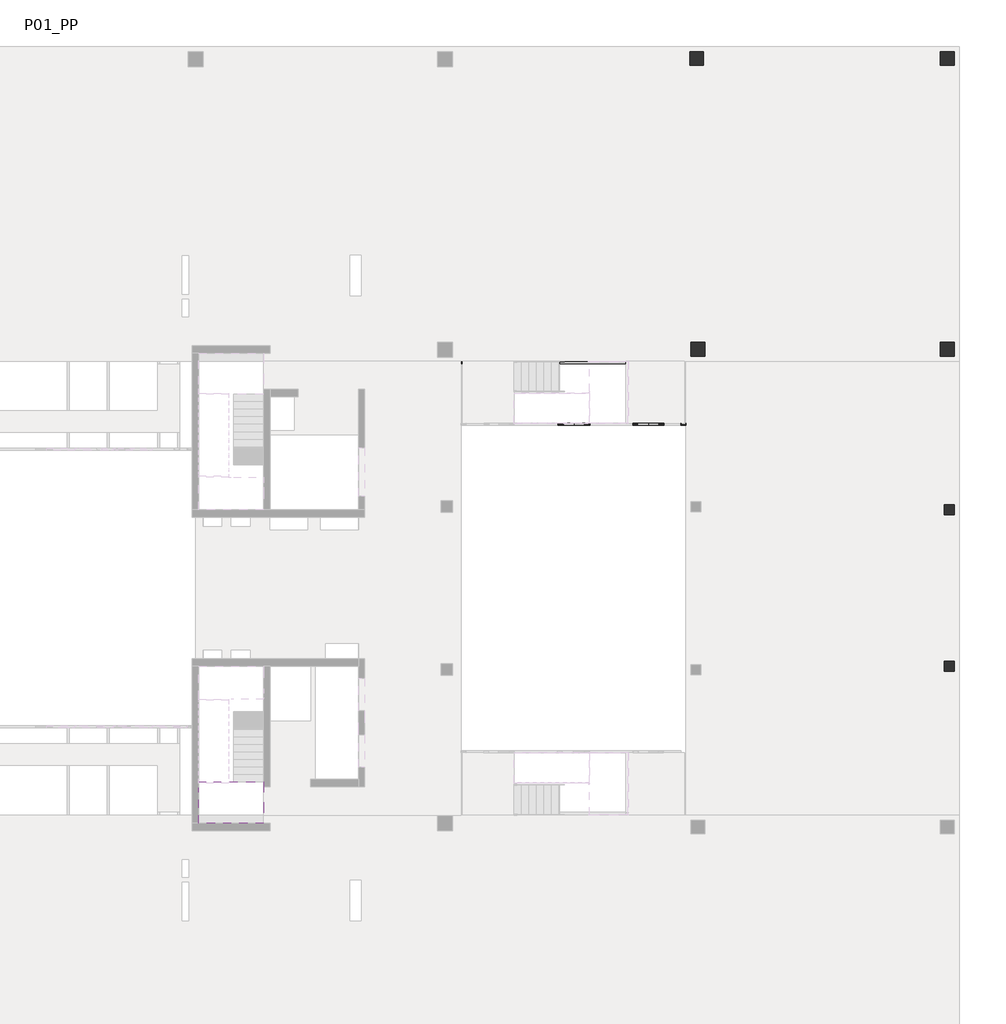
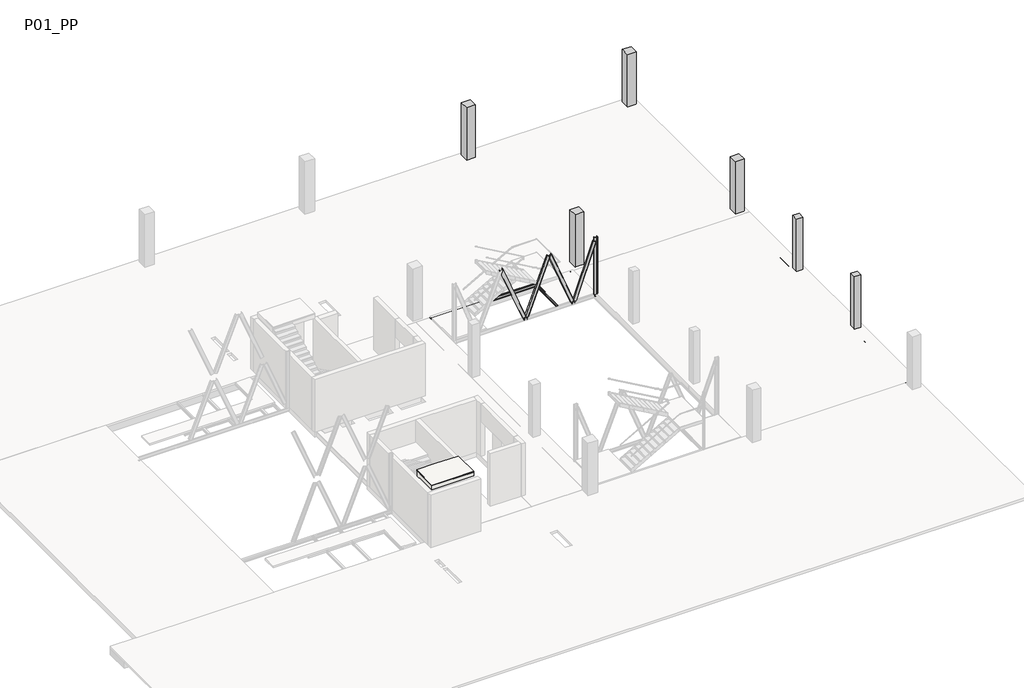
# One storey, part 6 of 8: 19 beams, 7 columns, 1 slab.
"""IFC4 building model written with IfcOpenShell, lengths in millimetres."""

from ifc_helpers import new_model, si_unit, frame, origin, place, context, project, spatial, polyline, circle_curve, ellipse_curve, outline, extrude, faceted_brep, transform, mapped, element, save
from ifc_brep_helpers import plane_surface, cylinder_surface, revolved_surface, advanced_brep
from components import ub_universal_beams_ipe_200x100_e371353f, ub_universal_beams_ipe_200x100_1ecb3d1d, ub_universal_beams_ipe_200x100_6905c83b, upn_200x75_fcc0ec56

model = new_model("IFC4")

# Units and contexts
model_context = context("Model", 3, world=origin())
ifc_project = project(units=[si_unit("LENGTHUNIT", "METRE", prefix="MILLI")], contexts=[model_context])

# Site, building, storey
site = spatial("IfcSite", under=ifc_project)
building = spatial("IfcBuilding", under=site)
storey = spatial("IfcBuildingStorey", under=building, Name="P01_PP", Elevation=11160.0)

# Beams
placement = place(None, origin())
element("IfcBeam", 1, ObjectType="M_Concrete-Rectangular Beam : 1500 x 550mm", at=placement, inside=storey, context=model_context, shape_type="AdvancedBrep", body=[
    advanced_brep(
    [(16958.7687297, 13539.4134441, 10610.0), (16958.7687297, 24589.4144807, 10610.0), (16958.7687297, 24589.4144807, 11010.0), (16958.7687297, 13539.4134441, 11010.0), (15458.7687297, 24589.4144807, 10610.0), (15458.7687297, 13539.4134441, 10610.0), (15458.7687297, 15039.4134441, 10610.0), (16751.4451309, 14198.7161882, 10610.0), (16216.0922843, 13830.0736383, 10610.0), (15458.7687297, 13539.4134441, 11010.0), (15458.7687297, 15039.4134441, 11010.0), (15458.7687297, 24589.4144807, 11010.0), (16751.4451309, 14198.7161882, 10860.0), (16216.0922843, 13830.0736383, 10860.0)],
    [
        (0, 1),
        (1, 2),
        (2, 3),
        (3, 0),
        (4, 1),
        (0, 5),
        (5, 6),
        (6, 4),
        (7, 8, circle_curve(frame((16483.7687076, 14014.3949133, 10610.0), z_axis=(0.0, 0.0, 1.0), x_axis=(0.8236197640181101, 0.5671423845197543, 0.0)), 325.0)),
        (8, 7, circle_curve(frame((16483.7687076, 14014.3949133, 10610.0), z_axis=(0.0, 0.0, 1.0), x_axis=(0.8236197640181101, 0.5671423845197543, 0.0)), 325.0)),
        (5, 9),
        (9, 10),
        (10, 11),
        (11, 4),
        (11, 2),
        (12, 13, circle_curve(frame((16483.7687076, 14014.3949133, 10860.0), z_axis=(0.0, 0.0, 1.0), x_axis=(0.8236197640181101, 0.5671423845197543, 0.0)), 325.0)),
        (13, 8),
        (7, 12),
        (12, 13, circle_curve(frame((16483.7687076, 14014.3949133, 10860.0), z_axis=(0.0, 0.0, -1.0), x_axis=(0.8236197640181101, 0.5671423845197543, 0.0)), 325.0)),
        (3, 9),
    ],
    [
        plane_surface(frame((16958.7687297, 15052.1134441, 11160.0), z_axis=(1.0, 0.0, 0.0), x_axis=(0.0, 1.0, 0.0))),
        plane_surface(frame((16958.7687297, 15052.1134441, 10610.0), z_axis=(0.0, 0.0, -1.0), x_axis=(0.0, 1.0, 0.0))),
        plane_surface(frame((15458.7687297, 15052.1134441, 10610.0), z_axis=(-1.0, 0.0, 0.0), x_axis=(0.0, 1.0, 0.0))),
        plane_surface(frame((-32477.5931093, 24589.4144807, 10885.0), z_axis=(0.0, 1.0, 0.0), x_axis=(0.0, 0.0, 1.0))),
        revolved_surface(polyline([(16751.445130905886, 14198.716188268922, 10860.0), (16751.445130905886, 14198.716188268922, 10610.0)]), (16483.7687076, 14014.3949133, 5480.0), (0.0, 0.0, 1.0)),
        plane_surface(frame((16751.4451309, 14198.7161882, 10860.0), z_axis=(0.0, 0.0, -1.0000000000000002), x_axis=(-0.5671423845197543, 0.8236197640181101, 0.0))),
        plane_surface(frame((16982.6978133, 13539.4134441, 11160.0), z_axis=(0.0, -1.0, 0.0), x_axis=(-1.0, 0.0, 0.0))),
        plane_surface(frame((-33190.2931093, -4560.5861796, 11010.0), z_axis=(0.0, 0.0, 1.0), x_axis=(0.0, 1.0, 0.0))),
    ],
    [
        (0, [[1, 2, 3, 4]]),
        (1, [[5, -1, 6, 7, 8], [9, 10]]),
        (2, [[-8, -7, 11, 12, 13, 14]]),
        (3, [[-5, -14, 15, -2]]),
        (4, [[16, 17, -9, 18]]),
        (5, [[-16, 19]]),
        (6, [[-6, -4, 20, -11]]),
        (4, [[-19, -18, -10, -17]]),
        (7, [[-3, -15, -13, -12, -20]]),
    ],
),
])
element("IfcBeam", 2, ObjectType="M_Concrete-Rectangular Beam : 400 x 550mm", at=placement, inside=storey, context=model_context, shape_type="SweptSolid", body=[
    extrude(outline(polyline([(450.3958139, 24589.4144807), (850.3958139, 24589.4144807), (850.3958139, 15039.4134441), (450.3958139, 15039.4134441), (450.3958139, 24589.4144807)])), frame((0.0, 0.0, 10610.0), z_axis=(0.0, 0.0, 1.0), x_axis=(1.0, 0.0, 0.0)), (0.0, 0.0, 1.0), 400.0),
])
element("IfcBeam", 3, ObjectType="M_Concrete-Rectangular Beam : 400 x 550mm", at=placement, inside=storey, context=model_context, shape_type="SweptSolid", body=[
    extrude(outline(polyline([(2117.0624776, 24589.4144807), (2517.0624776, 24589.4144807), (2517.0624776, 15039.4134441), (2117.0624776, 15039.4134441), (2117.0624776, 24589.4144807)])), frame((0.0, 0.0, 10610.0), z_axis=(0.0, 0.0, 1.0), x_axis=(1.0, 0.0, 0.0)), (0.0, 0.0, 1.0), 400.0),
])
element("IfcBeam", 4, ObjectType="M_Concrete-Rectangular Beam : 400 x 550mm", at=placement, inside=storey, context=model_context, shape_type="SweptSolid", body=[
    extrude(outline(polyline([(3783.7291418, 24589.4144807), (4183.7291418, 24589.4144807), (4183.7291418, 15039.4134441), (3783.7291418, 15039.4134441), (3783.7291418, 24589.4144807)])), frame((0.0, 0.0, 10610.0), z_axis=(0.0, 0.0, 1.0), x_axis=(1.0, 0.0, 0.0)), (0.0, 0.0, 1.0), 400.0),
])
element("IfcBeam", 5, ObjectType="M_Concrete-Rectangular Beam : 400 x 550mm", at=placement, inside=storey, context=model_context, shape_type="SweptSolid", body=[
    extrude(outline(polyline([(5450.3958055, 24589.4144807), (5850.3958055, 24589.4144807), (5850.3958055, 15039.4134441), (5450.3958055, 15039.4134441), (5450.3958055, 24589.4144807)])), frame((0.0, 0.0, 10610.0), z_axis=(0.0, 0.0, 1.0), x_axis=(1.0, 0.0, 0.0)), (0.0, 0.0, 1.0), 400.0),
])
element("IfcBeam", 6, ObjectType="M_Concrete-Rectangular Beam : 400 x 550mm", at=placement, inside=storey, context=model_context, shape_type="SweptSolid", body=[
    extrude(outline(polyline([(7117.0624701, 24589.4144807), (7517.0624701, 24589.4144807), (7517.0624701, 15039.4134441), (7117.0624701, 15039.4134441), (7117.0624701, 24589.4144807)])), frame((0.0, 0.0, 10610.0), z_axis=(0.0, 0.0, 1.0), x_axis=(1.0, 0.0, 0.0)), (0.0, 0.0, 1.0), 400.0),
])
element("IfcBeam", 7, ObjectType="M_Concrete-Rectangular Beam : 400 x 550mm", at=placement, inside=storey, context=model_context, shape_type="SweptSolid", body=[
    extrude(outline(polyline([(8783.7291339, 24589.4144807), (9183.7291339, 24589.4144807), (9183.7291339, 15039.4134441), (8783.7291339, 15039.4134441), (8783.7291339, 24589.4144807)])), frame((0.0, 0.0, 10610.0), z_axis=(0.0, 0.0, 1.0), x_axis=(1.0, 0.0, 0.0)), (0.0, 0.0, 1.0), 400.0),
])
element("IfcBeam", 8, ObjectType="M_Concrete-Rectangular Beam : 400 x 550mm", at=placement, inside=storey, context=model_context, shape_type="SweptSolid", body=[
    extrude(outline(polyline([(10450.3957976, 24589.4144807), (10850.3957976, 24589.4144807), (10850.3957976, 15039.4134441), (10450.3957976, 15039.4134441), (10450.3957976, 24589.4144807)])), frame((0.0, 0.0, 10610.0), z_axis=(0.0, 0.0, 1.0), x_axis=(1.0, 0.0, 0.0)), (0.0, 0.0, 1.0), 400.0),
])
element("IfcBeam", 9, ObjectType="M_Concrete-Rectangular Beam : 400 x 550mm", at=placement, inside=storey, context=model_context, shape_type="SweptSolid", body=[
    extrude(outline(polyline([(12117.0624618, 24589.4144807), (12517.0624618, 24589.4144807), (12517.0624618, 15039.4134441), (12117.0624618, 15039.4134441), (12117.0624618, 24589.4144807)])), frame((0.0, 0.0, 10610.0), z_axis=(0.0, 0.0, 1.0), x_axis=(1.0, 0.0, 0.0)), (0.0, 0.0, 1.0), 400.0),
])
element("IfcBeam", 10, ObjectType="M_Concrete-Rectangular Beam : 400 x 550mm", at=placement, inside=storey, context=model_context, shape_type="SweptSolid", body=[
    extrude(outline(polyline([(13783.7291255, 24589.4144807), (14183.7291255, 24589.4144807), (14183.7291255, 15039.4134441), (13783.7291255, 15039.4134441), (13783.7291255, 24589.4144807)])), frame((0.0, 0.0, 10610.0), z_axis=(0.0, 0.0, 1.0), x_axis=(1.0, 0.0, 0.0)), (0.0, 0.0, 1.0), 400.0),
])
element("IfcBeam", 11, ObjectType="M_Concrete-Rectangular Beam : 700 x 500mm", at=placement, inside=storey, context=model_context, shape_type="AdvancedBrep", body=[
    advanced_brep(
    [(16958.7687242, 13539.4134441, 11160.0), (16258.7687242, 13539.4134441, 11160.0), (16258.7687242, -4560.5861501, 11160.0), (16958.7687242, -4560.5861501, 11160.0), (16258.7687242, 7597.8943447, 10860.0), (16258.7687242, 7597.8943447, 10660.0), (16258.7687242, 1381.9070959, 10660.0), (16258.7687242, 1381.9070959, 10860.0), (16258.7687242, 1347.8850416, 10860.0), (16258.7687242, 1347.8850416, 10660.0), (16258.7687242, -4560.5861501, 10660.0), (16258.7687242, -4560.5861501, 11010.0), (16258.7687242, 13539.4134441, 11010.0), (16258.7687242, 13539.4134441, 10660.0), (16258.7687242, 7631.8977908, 10660.0), (16258.7687242, 7631.8977908, 10860.0), (16958.7687242, -4560.5861501, 11010.0), (16958.7687242, -4560.5861501, 10660.0), (16958.7687242, 13539.4134441, 10660.0), (16958.7687242, 13539.4134441, 11010.0), (16558.2865725, 7914.8960678, 10660.0), (16558.2865725, 7914.8960678, 10860.0), (16558.2865725, 7314.8960678, 10860.0), (16558.2865725, 7314.8960678, 10660.0), (16858.2860442, 1364.8960687, 10660.0), (16858.2860442, 1364.8960687, 10860.0)],
    [
        (0, 1),
        (1, 2),
        (2, 3),
        (3, 0),
        (4, 5),
        (5, 6),
        (6, 7),
        (7, 8),
        (8, 9),
        (9, 10),
        (10, 11),
        (11, 2),
        (1, 12),
        (12, 13),
        (13, 14),
        (14, 15),
        (15, 4),
        (3, 16),
        (16, 17),
        (17, 18),
        (18, 19),
        (19, 0),
        (20, 21),
        (21, 15, circle_curve(frame((16558.2865725, 7614.8960678, 10860.0), z_axis=(0.0, 0.0, 1.0), x_axis=(0.0, 1.0, 0.0)), 300.0)),
        (14, 20, circle_curve(frame((16558.2865725, 7614.8960678, 10660.0), z_axis=(0.0, 0.0, -1.0), x_axis=(0.0, 1.0, 0.0)), 300.0)),
        (22, 21, circle_curve(frame((16558.2865725, 7614.8960678, 10860.0), z_axis=(0.0, 0.0, 1.0), x_axis=(0.0, 1.0, 0.0)), 300.0)),
        (20, 23, circle_curve(frame((16558.2865725, 7614.8960678, 10660.0), z_axis=(0.0, 0.0, -1.0), x_axis=(0.0, 1.0, 0.0)), 300.0)),
        (23, 22),
        (22, 4, circle_curve(frame((16558.2865725, 7614.8960678, 10860.0), z_axis=(0.0, 0.0, -1.0), x_axis=(0.0, 1.0, 0.0)), 300.0)),
        (23, 5, circle_curve(frame((16558.2865725, 7614.8960678, 10660.0), z_axis=(0.0, 0.0, -1.0), x_axis=(0.0, 1.0, 0.0)), 300.0)),
        (24, 25),
        (25, 7, circle_curve(frame((16558.2860442, 1364.8960687, 10860.0), z_axis=(0.0, 0.0, 1.0), x_axis=(1.0, 0.0, 0.0)), 300.0)),
        (6, 24, circle_curve(frame((16558.2860442, 1364.8960687, 10660.0), z_axis=(0.0, 0.0, -1.0), x_axis=(1.0, 0.0, 0.0)), 300.0)),
        (24, 9, circle_curve(frame((16558.2860442, 1364.8960687, 10660.0), z_axis=(0.0, 0.0, -1.0), x_axis=(1.0, 0.0, 0.0)), 300.0)),
        (8, 25, circle_curve(frame((16558.2860442, 1364.8960687, 10860.0), z_axis=(0.0, 0.0, 1.0), x_axis=(1.0, 0.0, 0.0)), 300.0)),
        (18, 13),
        (17, 10),
    ],
    [
        plane_surface(frame((16958.7687242, -5297.8861494, 11160.0), z_axis=(0.0, 0.0, 1.0), x_axis=(0.0, 1.0, 0.0))),
        plane_surface(frame((16258.7687242, -5297.8861494, 11160.0), z_axis=(-1.0, 0.0, 0.0), x_axis=(0.0, 1.0, 0.0))),
        plane_surface(frame((16958.7687242, -5297.8861494, 10660.0), z_axis=(1.0, 0.0, 0.0), x_axis=(0.0, 1.0, 0.0))),
        revolved_surface(polyline([(16558.2865725, 7914.8960678, 10860.0), (16558.2865725, 7914.8960678, 10660.0)]), (16558.2865725, 7614.8960678, 5480.0), (0.0, 0.0, 1.0)),
        plane_surface(frame((16558.2865725, 7914.8960678, 10860.0), z_axis=(0.0, 0.0, -1.0), x_axis=(-1.0, 0.0, 0.0))),
        revolved_surface(polyline([(16858.2860442, 1364.8960687, 10860.0), (16858.2860442, 1364.8960687, 10660.0)]), (16558.2860442, 1364.8960687, 5480.0), (0.0, 0.0, 1.0)),
        plane_surface(frame((16858.2860442, 1364.8960687, 10860.0), z_axis=(0.0, 0.0, -1.0), x_axis=(0.0, 1.0, 0.0))),
        plane_surface(frame((16982.6978133, 13539.4134441, 11160.0), z_axis=(0.0, 1.0, 0.0), x_axis=(-1.0, 0.0, 0.0))),
        plane_surface(frame((16258.7687242, -5297.8861494, 10660.0), z_axis=(0.0, 0.0, -1.0), x_axis=(0.0, 1.0, 0.0))),
        plane_surface(frame((16982.6978133, -4560.5861501, 10610.0), z_axis=(0.0, -1.0, 0.0), x_axis=(-1.0, 0.0, 0.0))),
    ],
    [
        (0, [[1, 2, 3, 4]]),
        (1, [[5, 6, 7, 8, 9, 10, 11, 12, -2, 13, 14, 15, 16, 17]]),
        (2, [[-4, 18, 19, 20, 21, 22]]),
        (3, [[23, 24, -16, 25]]),
        (3, [[26, -23, 27, 28]]),
        (4, [[-26, 29, -17, -24]]),
        (3, [[-28, 30, -5, -29]]),
        (5, [[31, 32, -7, 33]]),
        (5, [[-31, 34, -9, 35]]),
        (6, [[-32, -35, -8]]),
        (7, [[-1, -22, -21, 36, -14, -13]]),
        (8, [[-30, -27, -25, -15, -36, -20, 37, -10, -34, -33, -6]]),
        (9, [[-3, -12, -11, -37, -19, -18]]),
    ],
),
])
ub_universal_beams_ipe_200x100_shape = ub_universal_beams_ipe_200x100_e371353f(model_context)
element("IfcBeam", 12, ObjectType="UB-Universal Beams : IPE 200x100", at=placement, inside=storey, context=model_context, shape_type="MappedRepresentation", body=[
    mapped(ub_universal_beams_ipe_200x100_shape, transform((1299.9319648, 13489.4134389, 11060.0), x_axis=(-1.0, 0.0, 0.0), y_axis=(0.0, -1.0, 0.0), z_axis=(0.0, 0.0, 1.0))),
])
ub_universal_beams_ipe_200x100_2_shape = ub_universal_beams_ipe_200x100_1ecb3d1d(model_context)
element("IfcBeam", 13, ObjectType="UB-Universal Beams : IPE 200x100", at=placement, inside=storey, context=model_context, shape_type="MappedRepresentation", body=[
    mapped(ub_universal_beams_ipe_200x100_2_shape, transform((5938.4982342, 12672.0186888, 11060.0), x_axis=(0.0, -1.0, 0.0), y_axis=(1.0, 0.0, 0.0), z_axis=(0.0, 0.0, 1.0))),
])
ub_universal_beams_ipe_200x100_3_shape = ub_universal_beams_ipe_200x100_6905c83b(model_context)
element("IfcBeam", 14, ObjectType="UB-Universal Beams : IPE 200x100", at=placement, inside=storey, context=model_context, shape_type="MappedRepresentation", body=[
    mapped(ub_universal_beams_ipe_200x100_3_shape, transform((3714.2873994, 12677.4822857, 11060.0), x_axis=(0.0, -1.0, 0.0), y_axis=(1.0, 0.0, 0.0), z_axis=(0.0, 0.0, 1.0))),
])
element("IfcBeam", 15, ObjectType="UB-Universal Beams : IPE 200x100", at=placement, inside=storey, context=model_context, shape_type="MappedRepresentation", body=[
    mapped(ub_universal_beams_ipe_200x100_3_shape, transform((4826.3953909, 12677.4822857, 11060.0), x_axis=(0.0, -1.0, 0.0), y_axis=(1.0, 0.0, 0.0), z_axis=(0.0, 0.0, 1.0))),
])
element("IfcBeam", 16, ObjectType="M_MC Shapes : UPN200x75", at=placement, inside=storey, context=model_context, shape_type="AdvancedBrep", body=[
    advanced_brep(
    [(-19.1863074, 10979.6239684, 14772.8563582), (166.4935724, 10979.6239626, 14847.1731278), (166.4935747, 11054.6239626, 14847.1731278), (165.5886868, 11054.6239626, 14846.8109542), (161.9714052, 11051.32334, 14845.3631685), (152.6025763, 10990.7752085, 14841.6133764), (145.3680131, 10984.1739632, 14838.7178049), (1.9392522, 10984.1739677, 14781.3116811), (-5.2953106, 10990.7752134, 14778.4161096), (-14.6641357, 11051.3233455, 14774.6663175), (-18.2814171, 11054.6239683, 14773.2185318), (-19.186305, 11054.6239684, 14772.8563582), (1699.5322879, 10979.6239148, 11016.8876402), (1481.7173561, 10979.6239216, 11022.8600517), (1699.5322902, 11054.6239148, 11016.8876401), (1698.4707961, 11054.6239148, 11016.9167459), (1694.2274825, 11051.3232922, 11017.0330961), (1683.2372193, 10990.7751608, 11017.3344454), (1674.7505922, 10984.1739156, 11017.5671459), (1506.499052, 10984.1739208, 11022.180546), (1498.0124254, 10990.7751665, 11022.4132465), (1487.022166, 11051.3232987, 11022.7145956), (1482.7788526, 11054.6239215, 11022.8309459), (1481.7173585, 11054.6239216, 11022.8600517)],
    [
        (0, 1),
        (1, 2),
        (2, 3),
        (3, 4, circle_curve(frame((165.5886867, 11050.6739626, 14846.8109542), z_axis=(-0.37158384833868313, 1.1582589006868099e-08, 0.9283993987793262), x_axis=(3.1170859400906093e-08, 0.9999999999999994, 0.0)), 3.95)),
        (4, 5),
        (5, 6, circle_curve(frame((145.3680133, 10992.0739632, 14838.7178049), z_axis=(0.37158384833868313, -1.1582589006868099e-08, -0.9283993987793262), x_axis=(3.1170859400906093e-08, 0.9999999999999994, 0.0)), 7.9)),
        (6, 7),
        (7, 8, circle_curve(frame((1.9392525, 10992.0739677, 14781.3116811), z_axis=(0.37158384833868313, -1.1582589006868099e-08, -0.9283993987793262), x_axis=(3.1170859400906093e-08, 0.9999999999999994, 0.0)), 7.9)),
        (8, 9),
        (9, 10, circle_curve(frame((-18.2814172, 11050.6739683, 14773.2185318), z_axis=(-0.37158384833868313, 1.1582589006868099e-08, 0.9283993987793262), x_axis=(3.1170859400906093e-08, 0.9999999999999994, 0.0)), 3.95)),
        (10, 11),
        (11, 0),
        (12, 1),
        (0, 13),
        (13, 12),
        (14, 2),
        (12, 14),
        (15, 3),
        (14, 15),
        (16, 4),
        (15, 16, ellipse_curve(frame((1698.4707959, 11050.6739148, 11016.9167459), z_axis=(0.027409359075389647, -1.2011846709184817e-10, 0.9996242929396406), x_axis=(0.9996242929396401, -2.9461084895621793e-08, -0.02740935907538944)), 4.3034617, 3.95)),
        (16, 17),
        (17, 5),
        (18, 6),
        (17, 18, ellipse_curve(frame((1674.7505925, 10992.0739156, 11017.5671459), z_axis=(-0.027409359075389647, 1.2011846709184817e-10, -0.9996242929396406), x_axis=(-0.9996242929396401, 2.9461084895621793e-08, 0.02740935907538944)), 8.6069235, 7.9)),
        (19, 7),
        (18, 19),
        (20, 8),
        (19, 20, ellipse_curve(frame((1506.4990523, 10992.0739208, 11022.180546), z_axis=(-0.027409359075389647, 1.2011846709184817e-10, -0.9996242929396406), x_axis=(-0.9996242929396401, 2.9461084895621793e-08, 0.02740935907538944)), 8.6069235, 7.9)),
        (20, 21),
        (21, 9),
        (22, 10),
        (21, 22, ellipse_curve(frame((1482.7788525, 11050.6739215, 11022.8309459), z_axis=(0.027409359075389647, -1.2011846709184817e-10, 0.9996242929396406), x_axis=(0.9996242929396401, -2.9461084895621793e-08, -0.02740935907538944)), 4.3034617, 3.95)),
        (23, 11),
        (22, 23),
        (23, 13),
    ],
    [
        plane_surface(frame((73.6536329, 10990.5239655, 14810.014743), z_axis=(-0.3715838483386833, 1.1582589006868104e-08, 0.9283993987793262), x_axis=(-0.9283993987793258, 2.8939006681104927e-08, -0.37158384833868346))),
        plane_surface(frame((1481.7151728, 10979.6239216, 11022.8655066), z_axis=(-3.11708594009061e-08, -0.9999999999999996, 0.0), x_axis=(-0.37158384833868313, 1.1582589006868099e-08, 0.9283993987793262))),
        plane_surface(frame((1667.3950526, 10979.6239158, 11097.1822763), z_axis=(0.9283993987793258, -2.893900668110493e-08, 0.37158384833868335), x_axis=(-0.37158384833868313, 1.1582589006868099e-08, 0.9283993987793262))),
        plane_surface(frame((1667.3950549, 11054.6239158, 11097.1822763), z_axis=(3.11708594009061e-08, 0.9999999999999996, 0.0), x_axis=(-0.37158384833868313, 1.1582589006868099e-08, 0.9283993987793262))),
        cylinder_surface(frame((1666.4901669, 11050.6739158, 11096.8201027), z_axis=(0.37158384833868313, -1.1582589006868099e-08, -0.9283993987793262), x_axis=(3.1170859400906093e-08, 0.9999999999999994, 0.0)), 3.95),
        plane_surface(frame((1660.060699, 11033.148916, 11094.2467639), z_axis=(-0.9157674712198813, 0.16439933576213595, -0.36652803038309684), x_axis=(-0.37158384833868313, 1.1582589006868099e-08, 0.9283993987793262))),
        revolved_surface(polyline([(145.36801353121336, 10999.973963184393, 14838.717804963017), (1676.019927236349, 10999.973915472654, 11014.395723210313)]), (1646.2694935, 10992.0739164, 11088.7269534), (-0.37158384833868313, 1.1582589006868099e-08, 0.9283993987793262)),
        plane_surface(frame((1646.2694933, 10984.1739164, 11088.7269534), z_axis=(3.11708594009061e-08, 0.9999999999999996, 0.0), x_axis=(-0.37158384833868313, 1.1582589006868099e-08, 0.9283993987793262))),
        revolved_surface(polyline([(1.9392527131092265, 10999.973967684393, 14781.311681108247), (1507.7683871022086, 10999.9739207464, 11019.009123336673)]), (1502.8407327, 10992.0739209, 11031.3208295), (-0.37158384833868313, 1.1582589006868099e-08, 0.9283993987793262)),
        plane_surface(frame((1489.0495298, 11033.1489213, 11025.801019), z_axis=(0.9157674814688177, 0.16439927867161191, 0.36652803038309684), x_axis=(-0.37158384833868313, 1.1582589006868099e-08, 0.9283993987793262))),
        cylinder_surface(frame((1482.620063, 11050.6739215, 11023.2276802), z_axis=(0.37158384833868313, -1.1582589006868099e-08, -0.9283993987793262), x_axis=(3.1170859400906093e-08, 0.9999999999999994, 0.0)), 3.95),
        plane_surface(frame((1482.6200631, 11054.6239215, 11023.2276802), z_axis=(3.11708594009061e-08, 0.9999999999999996, 0.0), x_axis=(-0.37158384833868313, 1.1582589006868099e-08, 0.9283993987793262))),
        plane_surface(frame((1481.7151752, 11054.6239216, 11022.8655066), z_axis=(-0.9283993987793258, 2.893900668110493e-08, -0.37158384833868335), x_axis=(-0.37158384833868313, 1.1582589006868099e-08, 0.9283993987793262))),
        plane_surface(frame((1481.7173566, 10990.5239216, 11022.8600517), z_axis=(-0.027409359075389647, 1.2011846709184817e-10, -0.9996242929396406), x_axis=(0.9996242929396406, 3.2936076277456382e-12, -0.027409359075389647))),
    ],
    [
        (0, [[1, 2, 3, 4, 5, 6, 7, 8, 9, 10, 11, 12]]),
        (1, [[13, -1, 14, 15]]),
        (2, [[16, -2, -13, 17]]),
        (3, [[18, -3, -16, 19]]),
        (4, [[20, -4, -18, 21]]),
        (5, [[22, 23, -5, -20]]),
        (6, [[24, -6, -23, 25]]),
        (7, [[26, -7, -24, 27]]),
        (8, [[28, -8, -26, 29]]),
        (9, [[30, 31, -9, -28]]),
        (10, [[32, -10, -31, 33]]),
        (11, [[34, -11, -32, 35]]),
        (12, [[-14, -12, -34, 36]]),
        (13, [[-36, -35, -33, -30, -29, -27, -25, -22, -21, -19, -17, -15]]),
    ],
),
])
element("IfcBeam", 17, ObjectType="M_MC Shapes : UPN200x75", at=placement, inside=storey, context=model_context, shape_type="AdvancedBrep", body=[
    advanced_brep(
    [(3131.663607, 10979.6239691, 14683.2624777), (3131.6636046, 11054.6239691, 14683.2624777), (3130.7552016, 11054.6239691, 14683.6157423), (3127.1238688, 11051.3233462, 14685.0279145), (3117.7186503, 10990.7752141, 14688.6854669), (3110.4559846, 10984.1739684, 14691.5098112), (2966.4700715, 10984.1739639, 14747.5038225), (2959.2074054, 10990.7752092, 14750.3281668), (2949.8021832, 11051.3233407, 14753.9857192), (2946.1708501, 11054.6239633, 14755.3978914), (2945.2624471, 11054.6239633, 14755.751156), (2945.2624494, 10979.6239633, 14755.751156), (1491.3301212, 10979.623918, 11017.0339448), (1708.1872311, 10979.6239247, 11022.8612867), (1491.3301188, 11054.623918, 11017.0339448), (1492.3869452, 11054.623918, 11017.0623436), (1496.6115991, 11051.3232954, 11017.1758677), (1507.5535336, 10990.775164, 11017.4698972), (1516.0028415, 10984.1739188, 11017.6969454), (1683.5145105, 10984.173924, 11022.1982862), (1691.963818, 10990.7751697, 11022.4253343), (1702.9057487, 11051.3233018, 11022.7193637), (1707.1304025, 11054.6239247, 11022.8328878), (1708.1872288, 11054.6239247, 11022.8612866)],
    [
        (0, 1),
        (1, 2),
        (2, 3, circle_curve(frame((3130.7552018, 11050.6739691, 14683.6157423), z_axis=(0.36244339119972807, 1.1294457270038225e-08, 0.9320057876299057), x_axis=(-3.116199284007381e-08, 0.9999999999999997, 0.0)), 3.95)),
        (3, 4),
        (4, 5, circle_curve(frame((3110.4559844, 10992.0739684, 14691.5098112), z_axis=(-0.36244339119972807, -1.1294457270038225e-08, -0.9320057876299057), x_axis=(-3.116199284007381e-08, 0.9999999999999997, 0.0)), 7.9)),
        (5, 6),
        (6, 7, circle_curve(frame((2966.4700712, 10992.0739639, 14747.5038225), z_axis=(-0.36244339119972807, -1.1294457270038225e-08, -0.9320057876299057), x_axis=(-3.116199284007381e-08, 0.9999999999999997, 0.0)), 7.9)),
        (7, 8),
        (8, 9, circle_curve(frame((2946.1708502, 11050.6739633, 14755.3978914), z_axis=(0.36244339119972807, 1.1294457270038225e-08, 0.9320057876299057), x_axis=(-3.116199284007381e-08, 0.9999999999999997, 0.0)), 3.95)),
        (9, 10),
        (10, 11),
        (11, 0),
        (12, 13),
        (13, 0),
        (11, 12),
        (14, 12),
        (10, 14),
        (15, 14),
        (9, 15),
        (16, 15, ellipse_curve(frame((1492.3869453, 11050.673918, 11017.0623436), z_axis=(-0.02686210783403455, 1.5395051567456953e-10, 0.9996391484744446), x_axis=(-0.9996391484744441, -2.879198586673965e-08, -0.026862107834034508)), 4.284474, 3.95)),
        (8, 16),
        (7, 17),
        (17, 16),
        (18, 17, ellipse_curve(frame((1516.0028413, 10992.0739188, 11017.6969453), z_axis=(0.02686210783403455, -1.5395051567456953e-10, -0.9996391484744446), x_axis=(0.9996391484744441, 2.879198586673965e-08, 0.026862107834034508)), 8.568948, 7.9)),
        (6, 18),
        (19, 18),
        (5, 19),
        (20, 19, ellipse_curve(frame((1683.5145103, 10992.073924, 11022.1982862), z_axis=(0.02686210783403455, -1.5395051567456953e-10, -0.9996391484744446), x_axis=(0.9996391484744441, 2.879198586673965e-08, 0.026862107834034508)), 8.568948, 7.9)),
        (4, 20),
        (3, 21),
        (21, 20),
        (22, 21, ellipse_curve(frame((1707.1304026, 11050.6739247, 11022.8328878), z_axis=(-0.02686210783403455, 1.5395051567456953e-10, 0.9996391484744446), x_axis=(-0.9996391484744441, -2.879198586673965e-08, -0.026862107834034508)), 4.284474, 3.95)),
        (2, 22),
        (23, 22),
        (1, 23),
        (13, 23),
    ],
    [
        plane_surface(frame((3038.4630279, 10990.5239662, 14719.5068169), z_axis=(0.36244339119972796, 1.1294457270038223e-08, 0.9320057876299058), x_axis=(0.9320057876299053, 2.904315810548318e-08, -0.36244339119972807))),
        plane_surface(frame((1708.2034324, 10979.6239247, 11022.9029474), z_axis=(3.116199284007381e-08, -0.9999999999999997, 0.0), x_axis=(0.36244339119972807, 1.1294457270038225e-08, 0.9320057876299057))),
        plane_surface(frame((1521.8022749, 10979.6239189, 11095.3916256), z_axis=(-0.9320057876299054, -2.9043158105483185e-08, 0.3624433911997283), x_axis=(0.36244339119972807, 1.1294457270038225e-08, 0.9320057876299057))),
        plane_surface(frame((1521.8022725, 11054.6239189, 11095.3916256), z_axis=(-3.116199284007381e-08, 0.9999999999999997, 0.0), x_axis=(0.36244339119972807, 1.1294457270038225e-08, 0.9320057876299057))),
        cylinder_surface(frame((1522.7106756, 11050.673919, 11095.038361), z_axis=(-0.36244339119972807, -1.1294457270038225e-08, -0.9320057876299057), x_axis=(-3.116199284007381e-08, 0.9999999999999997, 0.0)), 3.95),
        plane_surface(frame((1529.1651189, 11033.1489192, 11092.5283228), z_axis=(0.9193247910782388, 0.16439933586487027, -0.3575119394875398), x_axis=(0.36244339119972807, 1.1294457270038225e-08, 0.9320057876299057))),
        revolved_surface(polyline([(2966.4700709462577, 10999.973963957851, 14747.503822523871), (1514.7998308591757, 10999.973918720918, 11014.603462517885)]), (1543.0098966, 10992.0739196, 11087.1442922), (0.36244339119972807, 1.1294457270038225e-08, 0.9320057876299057)),
        plane_surface(frame((1543.0098969, 10984.1739196, 11087.1442922), z_axis=(-3.116199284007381e-08, 0.9999999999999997, 0.0), x_axis=(0.36244339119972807, 1.1294457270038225e-08, 0.9320057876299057))),
        revolved_surface(polyline([(3110.455984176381, 10999.97396845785, 14691.509811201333), (1682.3114999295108, 10999.973923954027, 11019.104803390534)]), (1686.9958098, 10992.0739241, 11031.1502808), (0.36244339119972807, 1.1294457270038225e-08, 0.9320057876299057)),
        plane_surface(frame((1700.840585, 11033.1489245, 11025.7662502), z_axis=(-0.9193248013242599, 0.1643992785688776, 0.35751193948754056), x_axis=(0.36244339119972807, 1.1294457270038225e-08, 0.9320057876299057))),
        cylinder_surface(frame((1707.2950272, 11050.6739247, 11023.256212), z_axis=(-0.36244339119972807, -1.1294457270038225e-08, -0.9320057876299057), x_axis=(-3.116199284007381e-08, 0.9999999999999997, 0.0)), 3.95),
        plane_surface(frame((1707.295027, 11054.6239247, 11023.256212), z_axis=(-3.116199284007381e-08, 0.9999999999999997, 0.0), x_axis=(0.36244339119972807, 1.1294457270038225e-08, 0.9320057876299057))),
        plane_surface(frame((1708.20343, 11054.6239247, 11022.9029474), z_axis=(0.9320057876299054, 2.9043158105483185e-08, -0.3624433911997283), x_axis=(0.36244339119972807, 1.1294457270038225e-08, 0.9320057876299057))),
        plane_surface(frame((1708.1872308, 10990.5239247, 11022.8612867), z_axis=(0.02686210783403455, -1.5395051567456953e-10, -0.9996391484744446), x_axis=(0.9996391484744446, 4.136928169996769e-12, 0.02686210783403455))),
    ],
    [
        (0, [[1, 2, 3, 4, 5, 6, 7, 8, 9, 10, 11, 12]]),
        (1, [[13, 14, -12, 15]]),
        (2, [[16, -15, -11, 17]]),
        (3, [[18, -17, -10, 19]]),
        (4, [[20, -19, -9, 21]]),
        (5, [[-21, -8, 22, 23]]),
        (6, [[24, -22, -7, 25]]),
        (7, [[26, -25, -6, 27]]),
        (8, [[28, -27, -5, 29]]),
        (9, [[-29, -4, 30, 31]]),
        (10, [[32, -30, -3, 33]]),
        (11, [[34, -33, -2, 35]]),
        (12, [[36, -35, -1, -14]]),
        (13, [[-13, -16, -18, -20, -23, -24, -26, -28, -31, -32, -34, -36]]),
    ],
),
])
element("IfcBeam", 18, ObjectType="M_MC Shapes : UPN200x75", at=placement, inside=storey, context=model_context, shape_type="AdvancedBrep", body=[
    advanced_brep(
    [(3016.3803045, 10979.6239677, 14682.5990613), (3202.4544407, 10979.6239619, 14755.9231081), (3202.454443, 11054.6239619, 14755.9231081), (3201.5476337, 11054.6239619, 14755.5657724), (3197.9226715, 11051.3233393, 14754.1373262), (3188.5339497, 10990.7752078, 14750.4376237), (3181.2840252, 10984.1739625, 14747.5807313), (3037.5507202, 10984.173967, 14690.941438), (3030.3007961, 10990.7752127, 14688.0845456), (3020.9120782, 11051.3233448, 14684.3848432), (3017.2871161, 11054.6239676, 14682.956397), (3016.3803068, 11054.6239677, 14682.5990613), (4675.8207982, 10979.6239159, 11016.9672779), (4458.5302769, 10979.6239227, 11022.8609249), (4675.8208006, 11054.6239159, 11016.9672778), (4674.7618621, 11054.623916, 11016.9959998), (4670.5287647, 11051.3232934, 11017.1108156), (4659.5649616, 10990.7751619, 11017.4081906), (4651.0987669, 10984.1739167, 11017.6378222), (4483.2523085, 10984.1739219, 11022.1903806), (4474.7861142, 10990.7751677, 11022.4200121), (4463.8223149, 11051.3232998, 11022.7173871), (4459.5892178, 11054.6239227, 11022.8322029), (4458.5302793, 11054.6239227, 11022.8609248)],
    [
        (0, 1),
        (1, 2),
        (2, 3),
        (3, 4, circle_curve(frame((3201.5476336, 11050.6739619, 14755.5657724), z_axis=(-0.36662023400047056, 1.1424617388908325e-08, 0.9303706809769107), x_axis=(3.116199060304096e-08, 0.9999999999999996, 0.0)), 3.95)),
        (4, 5),
        (5, 6, circle_curve(frame((3181.2840254, 10992.0739625, 14747.5807313), z_axis=(0.36662023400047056, -1.1424617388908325e-08, -0.9303706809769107), x_axis=(3.116199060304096e-08, 0.9999999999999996, 0.0)), 7.9)),
        (6, 7),
        (7, 8, circle_curve(frame((3037.5507205, 10992.073967, 14690.941438), z_axis=(0.36662023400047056, -1.1424617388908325e-08, -0.9303706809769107), x_axis=(3.116199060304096e-08, 0.9999999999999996, 0.0)), 7.9)),
        (8, 9),
        (9, 10, circle_curve(frame((3017.287116, 11050.6739676, 14682.956397), z_axis=(-0.36662023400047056, 1.1424617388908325e-08, 0.9303706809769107), x_axis=(3.116199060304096e-08, 0.9999999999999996, 0.0)), 3.95)),
        (10, 11),
        (11, 0),
        (12, 1),
        (0, 13),
        (13, 12),
        (14, 2),
        (12, 14),
        (15, 3),
        (14, 15),
        (16, 4),
        (15, 16, ellipse_curve(frame((4674.7618619, 11050.673916, 11016.9959998), z_axis=(0.0271133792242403, -2.603596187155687e-11, 0.9996323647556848), x_axis=(0.9996323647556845, -2.9227094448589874e-08, -0.027113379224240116)), 4.2930661, 3.95)),
        (16, 17),
        (17, 5),
        (18, 6),
        (17, 18, ellipse_curve(frame((4651.0987671, 10992.0739167, 11017.6378222), z_axis=(-0.0271133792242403, 2.603596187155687e-11, -0.9996323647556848), x_axis=(-0.9996323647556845, 2.9227094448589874e-08, 0.027113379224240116)), 8.5861322, 7.9)),
        (19, 7),
        (18, 19),
        (20, 8),
        (19, 20, ellipse_curve(frame((4483.2523088, 10992.0739219, 11022.1903806), z_axis=(-0.0271133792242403, 2.603596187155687e-11, -0.9996323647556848), x_axis=(-0.9996323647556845, 2.9227094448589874e-08, 0.027113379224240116)), 8.5861322, 7.9)),
        (20, 21),
        (21, 9),
        (22, 10),
        (21, 22, ellipse_curve(frame((4459.5892177, 11050.6739227, 11022.8322029), z_axis=(0.0271133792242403, -2.603596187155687e-11, 0.9996323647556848), x_axis=(0.9996323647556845, -2.9227094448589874e-08, -0.027113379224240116)), 4.2930661, 3.95)),
        (23, 11),
        (22, 23),
        (23, 13),
    ],
    [
        plane_surface(frame((3109.4173729, 10990.5239648, 14719.2610847), z_axis=(-0.3666202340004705, 1.142461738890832e-08, 0.9303706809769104), x_axis=(-0.93037068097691, 2.8992201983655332e-08, -0.36662023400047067))),
        plane_surface(frame((4458.5176569, 10979.6239227, 11022.8929506), z_axis=(-3.1161990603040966e-08, -0.9999999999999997, 0.0), x_axis=(-0.36662023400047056, 1.1424617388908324e-08, 0.9303706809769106))),
        plane_surface(frame((4644.5917931, 10979.6239169, 11096.2169974), z_axis=(0.9303706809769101, -2.8992201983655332e-08, 0.3666202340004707), x_axis=(-0.36662023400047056, 1.1424617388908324e-08, 0.9303706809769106))),
        plane_surface(frame((4644.5917955, 11054.6239169, 11096.2169974), z_axis=(3.1161990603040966e-08, 0.9999999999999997, 0.0), x_axis=(-0.36662023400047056, 1.1424617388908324e-08, 0.9303706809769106))),
        cylinder_surface(frame((4643.684986, 11050.6739169, 11095.8596617), z_axis=(0.3666202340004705, -1.1424617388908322e-08, -0.9303706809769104), x_axis=(3.116199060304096e-08, 0.9999999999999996, 0.0)), 3.95),
        plane_surface(frame((4637.2418664, 11033.1489171, 11093.3206975), z_axis=(-0.9177119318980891, 0.16439933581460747, -0.36163195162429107), x_axis=(-0.36662023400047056, 1.1424617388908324e-08, 0.9303706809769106))),
        revolved_surface(polyline([(3181.2840256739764, 10999.973962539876, 14747.580731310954), (4652.331814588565, 10999.973916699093, 11014.50872328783)]), (4623.4213779, 10992.0739176, 11087.8746206), (-0.3666202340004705, 1.1424617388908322e-08, 0.9303706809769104)),
        plane_surface(frame((4623.4213776, 10984.1739176, 11087.8746206), z_axis=(3.1161990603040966e-08, 0.9999999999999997, 0.0), x_axis=(-0.36662023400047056, 1.1424617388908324e-08, 0.9303706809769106))),
        revolved_surface(polyline([(3037.550720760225, 10999.973967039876, 14690.941438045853), (4484.485356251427, 10999.973921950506, 11019.061281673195)]), (4479.688073, 10992.0739221, 11031.2353273), (-0.3666202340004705, 1.1424617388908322e-08, 0.9303706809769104)),
        plane_surface(frame((4465.867587, 11033.1489225, 11025.7892504), z_axis=(0.9177119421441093, 0.16439927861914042, 0.361631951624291), x_axis=(-0.36662023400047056, 1.1424617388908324e-08, 0.9303706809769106))),
        cylinder_surface(frame((4459.4244685, 11050.6739227, 11023.2502863), z_axis=(0.3666202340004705, -1.1424617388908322e-08, -0.9303706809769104), x_axis=(3.116199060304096e-08, 0.9999999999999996, 0.0)), 3.95),
        plane_surface(frame((4459.4244686, 11054.6239227, 11023.2502863), z_axis=(3.1161990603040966e-08, 0.9999999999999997, 0.0), x_axis=(-0.36662023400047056, 1.1424617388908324e-08, 0.9303706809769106))),
        plane_surface(frame((4458.5176593, 11054.6239227, 11022.8929506), z_axis=(-0.9303706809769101, 2.8992201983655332e-08, -0.3666202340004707), x_axis=(-0.36662023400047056, 1.1424617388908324e-08, 0.9303706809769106))),
        plane_surface(frame((4458.5302774, 10990.5239227, 11022.8609249), z_axis=(-0.0271133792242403, 2.603596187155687e-11, -0.9996323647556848), x_axis=(0.9996323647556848, 0.0, -0.0271133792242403))),
    ],
    [
        (0, [[1, 2, 3, 4, 5, 6, 7, 8, 9, 10, 11, 12]]),
        (1, [[13, -1, 14, 15]]),
        (2, [[16, -2, -13, 17]]),
        (3, [[18, -3, -16, 19]]),
        (4, [[20, -4, -18, 21]]),
        (5, [[22, 23, -5, -20]]),
        (6, [[24, -6, -23, 25]]),
        (7, [[26, -7, -24, 27]]),
        (8, [[28, -8, -26, 29]]),
        (9, [[30, 31, -9, -28]]),
        (10, [[32, -10, -31, 33]]),
        (11, [[34, -11, -32, 35]]),
        (12, [[-14, -12, -34, 36]]),
        (13, [[-36, -35, -33, -30, -29, -27, -25, -22, -21, -19, -17, -15]]),
    ],
),
])
element("IfcBeam", 19, ObjectType="M_MC Shapes : UPN200x75", at=placement, inside=storey, context=model_context, shape_type="AdvancedBrep", body=[
    advanced_brep(
    [(5991.423982, 10979.6239683, 14633.9885309), (5991.4239794, 11054.6239683, 14633.9885309), (5990.5072341, 11054.6239682, 14634.3195444), (5986.8425529, 11051.3233454, 14635.6427679), (5977.3509619, 10990.7752133, 14639.0699416), (5970.0215996, 10984.1739675, 14641.7163886), (5824.7133934, 10984.1739626, 14694.1834991), (5817.3840306, 10990.7752078, 14696.8299462), (5807.8924355, 11051.3233393, 14700.2571199), (5804.2277541, 11054.6239619, 14701.5803434), (5803.3110088, 11054.6239618, 14701.9113569), (5803.3110114, 10979.6239618, 14701.9113569), (4488.2266269, 10979.6239168, 11059.771525), (4702.5088633, 10979.6239241, 11064.3247518), (4488.2266244, 11054.6239168, 11059.7715249), (4489.2709023, 11054.6239168, 11059.7937145), (4493.4453945, 11051.3232942, 11059.8824172), (4504.2574091, 10990.7751628, 11060.1121589), (4512.6063934, 10984.1739176, 11060.2895642), (4678.1290966, 10984.1739233, 11063.8067125), (4686.4780804, 10990.7751691, 11063.9841179), (4697.2900908, 11051.3233012, 11064.2138594), (4701.4645827, 11054.6239241, 11064.3025621), (4702.5088607, 11054.6239241, 11064.3247517)],
    [
        (0, 1),
        (1, 2),
        (2, 3, circle_curve(frame((5990.5072342, 11050.6739682, 14634.3195444), z_axis=(0.3396141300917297, 1.1632296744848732e-08, 0.940564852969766), x_axis=(-3.425151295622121e-08, 0.9999999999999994, 0.0)), 3.95)),
        (3, 4),
        (4, 5, circle_curve(frame((5970.0215994, 10992.0739675, 14641.7163886), z_axis=(-0.3396141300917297, -1.1632296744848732e-08, -0.940564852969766), x_axis=(-3.425151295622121e-08, 0.9999999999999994, 0.0)), 7.9)),
        (5, 6),
        (6, 7, circle_curve(frame((5824.7133931, 10992.0739626, 14694.1834991), z_axis=(-0.3396141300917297, -1.1632296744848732e-08, -0.940564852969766), x_axis=(-3.425151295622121e-08, 0.9999999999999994, 0.0)), 7.9)),
        (7, 8),
        (8, 9, circle_curve(frame((5804.2277542, 11050.6739619, 14701.5803434), z_axis=(0.3396141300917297, 1.1632296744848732e-08, 0.940564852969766), x_axis=(-3.425151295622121e-08, 0.9999999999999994, 0.0)), 3.95)),
        (9, 10),
        (10, 11),
        (11, 0),
        (12, 13),
        (13, 0),
        (11, 12),
        (14, 12),
        (10, 14),
        (15, 14),
        (9, 15),
        (16, 15, ellipse_curve(frame((4489.2709025, 11050.6739168, 11059.7937145), z_axis=(-0.021243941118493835, 2.786987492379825e-12, 0.9997743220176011), x_axis=(-0.9997743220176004, -3.2347950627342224e-08, -0.02124394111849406)), 4.2330295, 3.95)),
        (8, 16),
        (7, 17),
        (17, 16),
        (18, 17, ellipse_curve(frame((4512.6063931, 10992.0739176, 11060.2895642), z_axis=(0.021243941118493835, -2.786987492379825e-12, -0.9997743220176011), x_axis=(0.9997743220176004, 3.2347950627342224e-08, 0.02124394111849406)), 8.4660589, 7.9)),
        (6, 18),
        (19, 18),
        (5, 19),
        (20, 19, ellipse_curve(frame((4678.1290963, 10992.0739233, 11063.8067125), z_axis=(0.021243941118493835, -2.786987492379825e-12, -0.9997743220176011), x_axis=(0.9997743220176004, 3.2347950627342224e-08, 0.02124394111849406)), 8.4660589, 7.9)),
        (4, 20),
        (3, 21),
        (21, 20),
        (22, 21, ellipse_curve(frame((4701.4645829, 11050.6739241, 11064.3025621), z_axis=(-0.021243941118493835, 2.786987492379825e-12, 0.9997743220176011), x_axis=(-0.9997743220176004, -3.2347950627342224e-08, -0.02124394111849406)), 4.2330295, 3.95)),
        (2, 22),
        (23, 22),
        (1, 23),
        (13, 23),
    ],
    [
        plane_surface(frame((5897.3674963, 10990.5239651, 14667.9499439), z_axis=(0.33961413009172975, 1.1632296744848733e-08, 0.9405648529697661), x_axis=(0.9405648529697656, 3.2215769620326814e-08, -0.3396141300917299))),
        plane_surface(frame((4688.5283333, 10979.6239236, 11025.6055289), z_axis=(3.425151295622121e-08, -0.9999999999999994, 0.0), x_axis=(0.3396141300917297, 1.1632296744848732e-08, 0.940564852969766))),
        plane_surface(frame((4500.4153627, 10979.6239172, 11093.5283549), z_axis=(-0.9405648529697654, -3.2215769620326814e-08, 0.3396141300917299), x_axis=(0.3396141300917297, 1.1632296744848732e-08, 0.940564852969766))),
        plane_surface(frame((4500.4153601, 11054.6239172, 11093.5283549), z_axis=(-3.425151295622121e-08, 0.9999999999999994, 0.0), x_axis=(0.3396141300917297, 1.1632296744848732e-08, 0.940564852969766))),
        cylinder_surface(frame((4501.3321056, 11050.6739172, 11093.1973415), z_axis=(-0.3396141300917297, -1.1632296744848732e-08, -0.940564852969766), x_axis=(-3.425151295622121e-08, 0.9999999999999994, 0.0)), 3.95),
        plane_surface(frame((4507.8458232, 11033.1489175, 11090.8454033), z_axis=(0.9277674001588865, 0.16439933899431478, -0.3349932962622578), x_axis=(0.3396141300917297, 1.1632296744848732e-08, 0.940564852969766))),
        revolved_surface(polyline([(5824.713392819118, 10999.973962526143, 14694.183499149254), (4511.5727068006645, 10999.97391754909, 11057.426760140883)]), (4521.8177444, 10992.0739179, 11085.8004972), (0.3396141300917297, 1.1632296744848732e-08, 0.940564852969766)),
        plane_surface(frame((4521.8177447, 10984.1739179, 11085.8004972), z_axis=(-3.425151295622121e-08, 0.9999999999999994, 0.0), x_axis=(0.3396141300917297, 1.1632296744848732e-08, 0.940564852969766))),
        revolved_surface(polyline([(5970.0215991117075, 10999.973967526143, 14641.71638862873), (4677.0954100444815, 10999.973923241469, 11060.94390842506)]), (4667.1259507, 10992.0739229, 11033.3333867), (0.3396141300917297, 1.1632296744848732e-08, 0.940564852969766)),
        plane_surface(frame((4681.0978691, 11033.1489234, 11028.2884806), z_axis=(-0.9277674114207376, 0.16439927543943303, 0.33499329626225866), x_axis=(0.3396141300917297, 1.1632296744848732e-08, 0.940564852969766))),
        cylinder_surface(frame((4687.6115855, 11050.6739236, 11025.9365424), z_axis=(-0.3396141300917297, -1.1632296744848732e-08, -0.940564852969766), x_axis=(-3.425151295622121e-08, 0.9999999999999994, 0.0)), 3.95),
        plane_surface(frame((4687.6115854, 11054.6239236, 11025.9365424), z_axis=(-3.425151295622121e-08, 0.9999999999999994, 0.0), x_axis=(0.3396141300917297, 1.1632296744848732e-08, 0.940564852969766))),
        plane_surface(frame((4688.5283307, 11054.6239236, 11025.6055289), z_axis=(0.9405648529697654, 3.2215769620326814e-08, -0.3396141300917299), x_axis=(0.3396141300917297, 1.1632296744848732e-08, 0.940564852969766))),
        plane_surface(frame((4702.508863, 10990.5239241, 11064.3247518), z_axis=(0.021243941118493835, -2.786987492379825e-12, -0.9997743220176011), x_axis=(0.9997743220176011, 0.0, 0.021243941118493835))),
    ],
    [
        (0, [[1, 2, 3, 4, 5, 6, 7, 8, 9, 10, 11, 12]]),
        (1, [[13, 14, -12, 15]]),
        (2, [[16, -15, -11, 17]]),
        (3, [[18, -17, -10, 19]]),
        (4, [[20, -19, -9, 21]]),
        (5, [[-21, -8, 22, 23]]),
        (6, [[24, -22, -7, 25]]),
        (7, [[26, -25, -6, 27]]),
        (8, [[28, -27, -5, 29]]),
        (9, [[-29, -4, 30, 31]]),
        (10, [[32, -30, -3, 33]]),
        (11, [[34, -33, -2, 35]]),
        (12, [[36, -35, -1, -14]]),
        (13, [[-13, -16, -18, -20, -23, -24, -26, -28, -31, -32, -34, -36]]),
    ],
),
])

# Columns
element("IfcColumn", 20, ObjectType="Concrete-Rectangular-Column : Pilar_Rectangular-Formigo-550x550", at=placement, inside=storey, context=model_context, shape_type="Brep", body=[
    faceted_brep([(6758.8155464, 25889.4133956, 11160.0), (6758.8155472, 25339.4133956, 11160.0), (6208.8155472, 25339.4133947, 11160.0), (6208.8155464, 25889.4133947, 11160.0), (6758.8155464, 25889.4133956, 14610.0), (6758.8155472, 25339.4133956, 14610.0), (6758.8155472, 25339.4133956, 14360.0), (6758.8155464, 25889.4133956, 14360.0), (6208.8155472, 25339.4133947, 14610.0), (6208.8155472, 25339.4133947, 14360.0), (6208.8155464, 25889.4133947, 14610.0), (6208.8155464, 25889.4133947, 14360.0)], [[[0, 1, 2, 3]], [[4, 5, 6, 1, 0, 7]], [[5, 8, 9, 2, 1, 6]], [[8, 10, 11, 3, 2, 9]], [[10, 4, 7, 0, 3, 11]], [[4, 10, 8, 5]]]),
])
element("IfcColumn", 21, ObjectType="Concrete-Rectangular-Column : Pilar_Rectangular-Formigo-400x400", at=placement, inside=storey, context=model_context, shape_type="Brep", body=[
    faceted_brep([(16758.7654432, 1564.4119943, 11160.0), (16758.7654437, 1164.4119943, 11160.0), (16358.7654437, 1164.4119939, 11160.0), (16358.7654432, 1564.4119939, 11160.0), (16758.7654432, 1564.4119943, 14610.0), (16758.7654437, 1164.4119943, 14610.0), (16758.7654437, 1164.4119943, 14410.0), (16758.7654432, 1564.4119943, 14410.0), (16358.7654437, 1164.4119939, 14610.0), (16358.7654437, 1164.4119939, 14410.0), (16358.7654432, 1564.4119939, 14610.0), (16358.7654432, 1564.4119939, 14410.0)], [[[0, 1, 2, 3]], [[4, 5, 6, 1, 0, 7]], [[5, 8, 9, 2, 1, 6]], [[8, 10, 11, 3, 2, 9]], [[10, 4, 7, 0, 3, 11]], [[4, 10, 8, 5]]]),
])
element("IfcColumn", 22, ObjectType="Concrete-Rectangular-Column : Pilar_Rectangular-Formigo-400x400", at=placement, inside=storey, context=model_context, shape_type="Brep", body=[
    faceted_brep([(16758.7654618, 7814.4125105, 11160.0), (16758.7654623, 7414.4125105, 11160.0), (16358.7654623, 7414.41251, 11160.0), (16358.7654618, 7814.41251, 11160.0), (16758.7654618, 7814.4125105, 14610.0), (16758.7654623, 7414.4125105, 14610.0), (16758.7654623, 7414.4125105, 14410.0), (16758.7654618, 7814.4125105, 14410.0), (16358.7654623, 7414.41251, 14610.0), (16358.7654623, 7414.41251, 14410.0), (16358.7654618, 7814.41251, 14610.0), (16358.7654618, 7814.41251, 14410.0)], [[[0, 1, 2, 3]], [[4, 5, 6, 1, 0, 7]], [[5, 8, 9, 2, 1, 6]], [[8, 10, 11, 3, 2, 9]], [[10, 4, 7, 0, 3, 11]], [[4, 10, 8, 5]]]),
])
element("IfcColumn", 23, ObjectType="Concrete-Rectangular-Column : Pilar_Rectangular-Formigo-550x550", at=placement, inside=storey, context=model_context, shape_type="Brep", body=[
    faceted_brep([(16758.7685923, 25889.4134356, 11160.0), (16758.7685927, 25339.4134356, 11160.0), (16208.7685927, 25339.4134352, 11160.0), (16208.7685923, 25889.4134352, 11160.0), (16758.7685923, 25889.4134356, 14610.0), (16758.7685927, 25339.4134356, 14610.0), (16758.7685927, 25339.4134356, 14360.0), (16758.7685923, 25889.4134356, 14360.0), (16208.7685927, 25339.4134352, 14610.0), (16208.7685927, 25339.4134352, 14360.0), (16208.7685923, 25889.4134352, 14610.0), (16208.7685923, 25889.4134352, 14360.0)], [[[0, 1, 2, 3]], [[4, 5, 6, 1, 0, 7]], [[5, 8, 9, 2, 1, 6]], [[8, 10, 11, 3, 2, 9]], [[10, 4, 7, 0, 3, 11]], [[4, 10, 8, 5]]]),
])
element("IfcColumn", 24, ObjectType="Concrete-Rectangular-Column : Pilar_Rectangular-Formigo-550x550", at=placement, inside=storey, context=model_context, shape_type="Brep", body=[
    faceted_brep([(16758.7687081, 14289.394575, 11160.0), (16758.7687084, 13739.394575, 11160.0), (16208.7687084, 13739.3945747, 11160.0), (16208.7687081, 14289.3945747, 11160.0), (16758.7687081, 14289.394575, 14610.0), (16758.7687084, 13739.394575, 14610.0), (16758.7687084, 13739.394575, 14360.0), (16758.7687081, 14289.394575, 14360.0), (16208.7687084, 13739.3945747, 14610.0), (16208.7687084, 13739.3945747, 14360.0), (16208.7687081, 14289.3945747, 14610.0), (16208.7687081, 14289.3945747, 14360.0)], [[[0, 1, 2, 3]], [[4, 5, 6, 1, 0, 7]], [[5, 8, 9, 2, 1, 6]], [[8, 10, 11, 3, 2, 9]], [[10, 4, 7, 0, 3, 11]], [[4, 10, 8, 5]]]),
])
element("IfcColumn", 25, ObjectType="Concrete-Rectangular-Column : Pilar_Rectangular-Formigo-550x550", at=placement, inside=storey, context=model_context, shape_type="Brep", body=[
    faceted_brep([(6809.6968927, 14289.877527, 11160.0), (6809.6968905, 13739.877527, 11160.0), (6259.6968905, 13739.8775292, 11160.0), (6259.6968927, 14289.8775292, 11160.0), (6809.6968927, 14289.877527, 14610.0), (6809.6968905, 13739.877527, 14610.0), (6809.6968905, 13739.877527, 14360.0), (6809.6968927, 14289.877527, 14360.0), (6259.6968905, 13739.8775292, 14610.0), (6259.6968905, 13739.8775292, 14360.0), (6259.6968927, 14289.8775292, 14610.0), (6259.6968927, 14289.8775292, 14360.0)], [[[0, 1, 2, 3]], [[4, 5, 6, 1, 0, 7]], [[5, 8, 9, 2, 1, 6]], [[8, 10, 11, 3, 2, 9]], [[10, 4, 7, 0, 3, 11]], [[4, 10, 8, 5]]]),
])
upn_200x75_shape = upn_200x75_fcc0ec56(model_context)
element("IfcColumn", 26, ObjectType="M_MC Shapes-Column : UPN 200x75", at=placement, inside=storey, context=model_context, shape_type="MappedRepresentation", body=[
    mapped(upn_200x75_shape, transform((5958.8307626, 11006.0236936, 0.0), x_axis=(3.1229579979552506e-08, 0.9999999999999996, 0.0), y_axis=(-0.9999999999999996, 3.1229579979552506e-08, 0.0), z_axis=(0.0, 0.0, 1.0))),
])

# Slab
element("IfcSlab", 27, ObjectType="250mm_Thickness", at=placement, inside=storey, context=model_context, shape_type="SolidModel", body=[
    faceted_brep([(-12190.3216429, -3235.1011462, 14960.0), (-12190.3216429, -3285.1011462, 14960.0), (-13390.3216429, -3285.1011462, 14960.0), (-13390.3216429, -3646.3035113, 14960.0), (-13390.3216429, -4885.1039312, 14960.0), (-10790.2146087, -4885.1039312, 14960.0), (-10790.2146087, -3235.1011462, 14960.0), (-13390.3216429, -3285.1011462, 14803.75), (-13390.3216429, -3285.1011462, 14521.8737682), (-13390.3216429, -3646.3035113, 14710.0), (-13390.3216429, -4885.1039312, 14710.0), (-10790.2146087, -4885.1039312, 14710.0), (-10790.2146087, -3235.1011462, 14710.0), (-12190.3216429, -3646.3035113, 14710.0), (-12190.3216429, -3285.1011462, 14710.0), (-12190.3216429, -3235.1011462, 14710.0), (-12190.3216429, -3285.1011462, 14803.75), (-12190.3216429, -3285.1011462, 14521.8737682)], [[[0, 1, 2, 3, 4, 5, 6]], [[2, 7, 8, 9, 10, 4, 3]], [[6, 5, 11, 12]], [[5, 4, 10, 11]], [[9, 13, 14, 15, 12, 11, 10]], [[2, 1, 16, 14, 17, 8, 7]], [[0, 6, 12, 15]], [[13, 9, 8, 17]], [[14, 13, 17]], [[1, 0, 15, 14, 16]]]),
    extrude(outline(polyline([(-12190.3216429, -3235.1011462), (-10790.2146087, -3235.1011462), (-10790.2146087, -4885.1039312), (-13390.3216429, -4885.1039312), (-13390.3216429, -3235.1011462), (-12190.3216429, -3235.1011462)])), frame((0.0, 0.0, 14960.0), z_axis=(0.0, 0.0, 1.0), x_axis=(1.0, 0.0, 0.0)), (0.0, 0.0, 1.0), 50.0),
])

save(model, "model.ifc")
